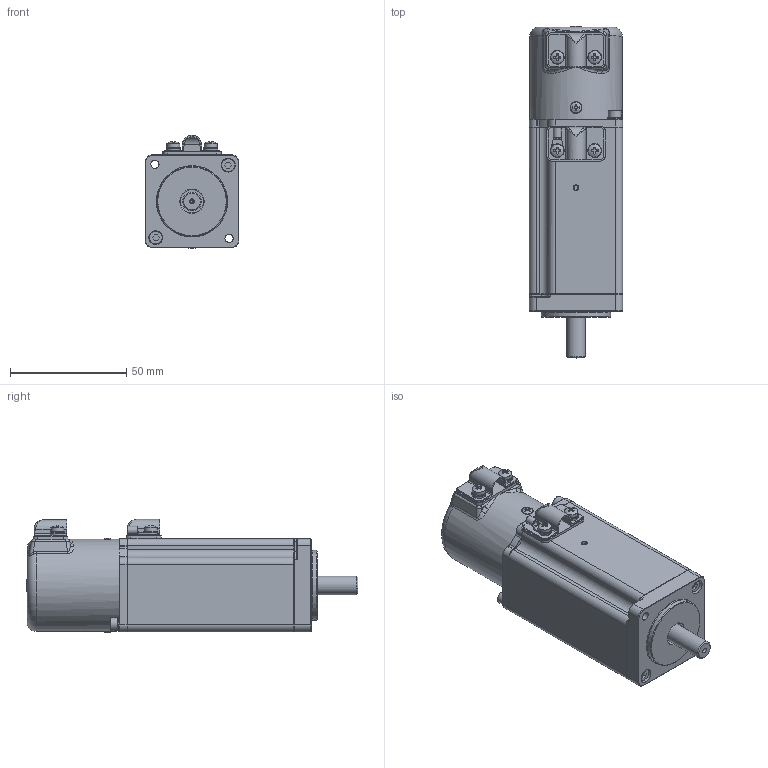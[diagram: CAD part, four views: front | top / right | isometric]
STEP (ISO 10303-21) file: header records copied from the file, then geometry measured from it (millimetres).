
FILE_DESCRIPTION(('STEP AP203'),'1');
FILE_NAME('B600G-D2R.stp','2021-04-08T01:47:51',(' '),(' '),'Spatial InterOp 3D',' ',' ');
FILE_SCHEMA(('CONFIG_CONTROL_DESIGN'));
Length unit declared in the file: millimetre
Products named in the file (1): B600G-D2R
Bounding box: 40 x 142.5 x 48.58 mm (x, y, z)
Volume: 174804.5 mm3; surface area: 24759.9 mm2
Topology: 1 solids, 5 shells, 598 faces, 1513 edges, 936 vertices
Faces by surface type: plane 281, cylinder 164, cone 72, torus 40, bspline 27, offset 8, sphere 4, revolution 2
Full cylindrical faces by diameter (mm): 1 x1, 2 x1, 2.5 x5, 3 x8, 3.2 x6, 3.4 x1, 3.5 x8, 4.7 x2, 5 x1, 5.5 x4, 5.6 x4, 6 x5, 7 x2, 8 x1, 10 x1, 30 x1, 39.6 x1
Entity records: 20975 total; most frequent: CARTESIAN_POINT 7365, DIRECTION 2770, ORIENTED_EDGE 2766, EDGE_CURVE 1383, AXIS2_PLACEMENT_3D 1077, VERTEX_POINT 906, EDGE_LOOP 730, FACE_OUTER_BOUND 658
